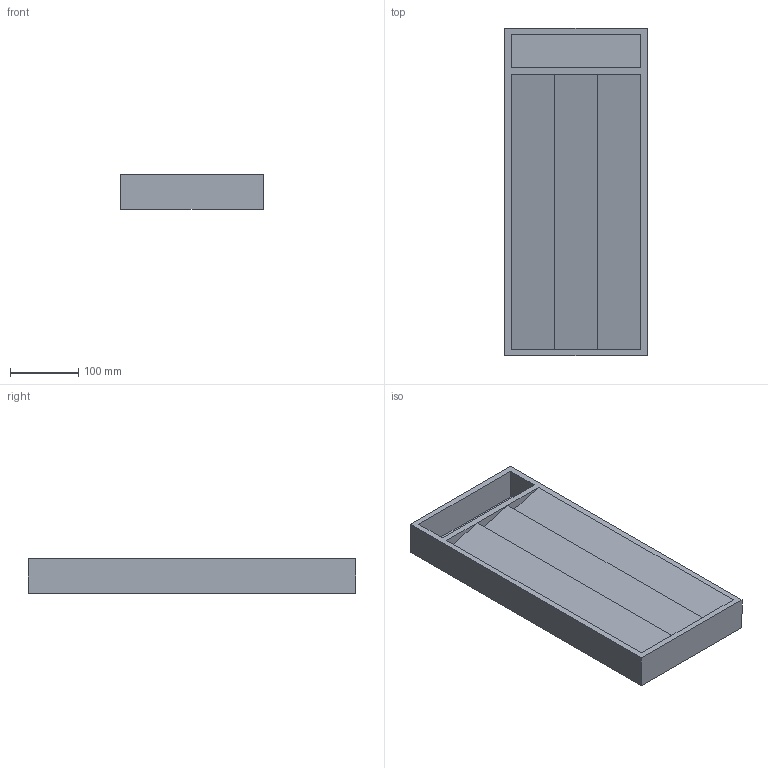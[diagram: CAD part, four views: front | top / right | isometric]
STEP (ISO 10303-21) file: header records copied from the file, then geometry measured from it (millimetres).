
FILE_DESCRIPTION (( 'STEP AP214' ), '1' );
FILE_NAME ('68361_Rollenhalter_NL500.step', '2010-10-11T13:40:50', ( 'grass' ), ( '' ), 'SwSTEP 2.0', 'SolidWorks 2010', '' );
FILE_SCHEMA (( 'AUTOMOTIVE_DESIGN' ));
Length unit declared in the file: millimetre
Products named in the file (1): 68361_Rollenhalter_NL500
Bounding box: 208 x 479 x 50 mm (x, y, z)
Volume: 3864210 mm3; surface area: 318166.6 mm2
Topology: 1 solids, 1 shells, 23 faces, 49 edges, 30 vertices
Faces by surface type: plane 23
Entity records: 633 total; most frequent: CARTESIAN_POINT 103, ORIENTED_EDGE 98, DIRECTION 97, LINE 49, VECTOR 49, EDGE_CURVE 49, VERTEX_POINT 30, EDGE_LOOP 25
